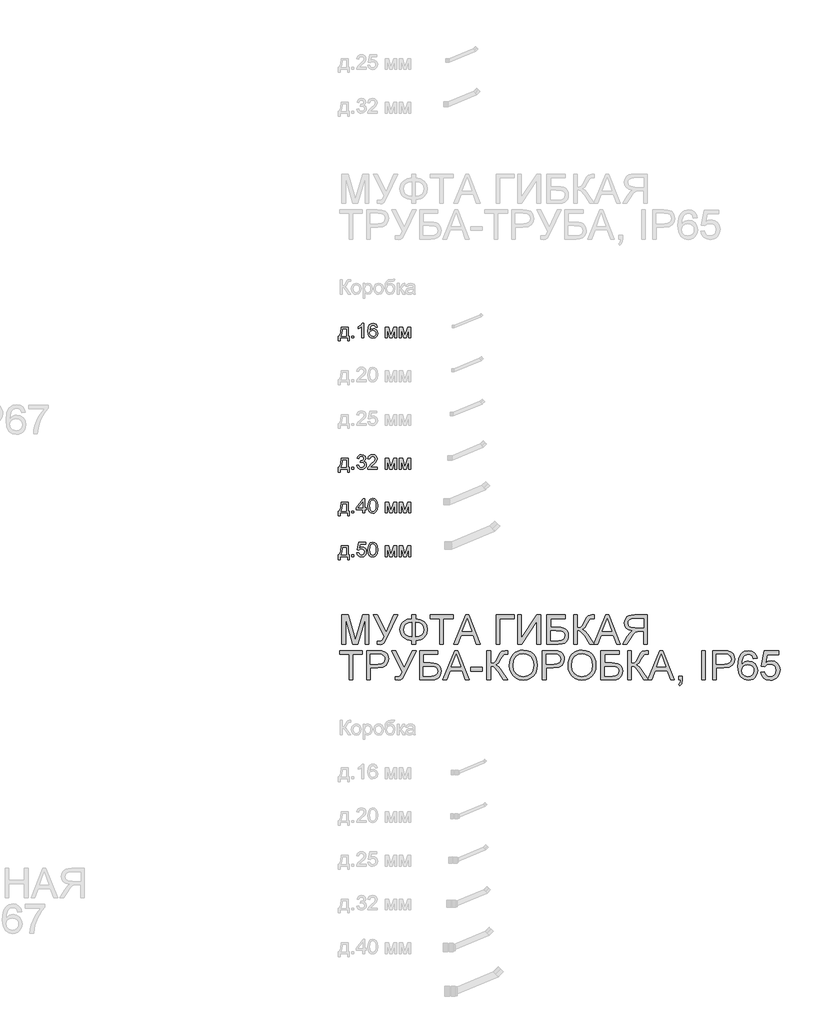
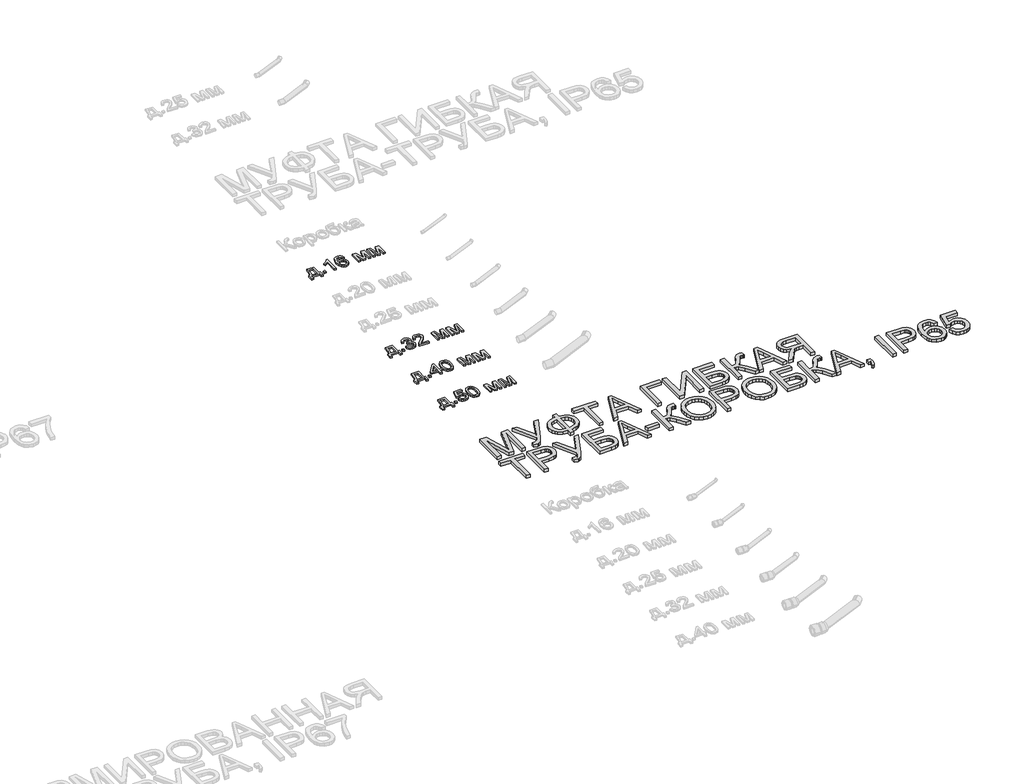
# One storey, part 73 of 98: 5 proxies.
"""IFC4 building model written with IfcOpenShell, lengths in millimetres."""

from ifc_helpers import new_model, si_unit, origin, origin_with_axes, place, context, project, spatial, polyline, outline, extrude, element, save

model = new_model("IFC4")

# Units and contexts
model_context = context("Model", 3, world=origin())
ifc_project = project(units=[si_unit("LENGTHUNIT", "METRE", prefix="MILLI")], contexts=[model_context])

# Site, building, storey
site = spatial("IfcSite", under=ifc_project)
building = spatial("IfcBuilding", under=site)
storey = spatial("IfcBuildingStorey", under=building, Name="Этаж 01", Elevation=0.0)

# Proxies
placement = place(None, origin())
element("IfcBuildingElementProxy", 1, Name="100", ObjectType="100", at=placement, inside=storey, context=model_context, shape_type="SweptSolid", body=[
    extrude(outline(polyline([(14428.905254, -21305.7395637), (14475.9941494, -21305.7395637), (14475.9941494, -21366.9551277), (14485.4119285, -21366.9551277), (14485.4119285, -21399.9173545), (14472.8548897, -21399.9173545), (14472.8548897, -21379.5121665), (14421.0571048, -21379.5121665), (14421.0571048, -21399.9173545), (14408.500066, -21399.9173545), (14408.500066, -21366.9551277), (14416.3482152, -21366.9551277), (14426.0480372, -21343.0060098), (14428.905254, -21305.7395637)]), holes=[polyline([(14439.8926629, -21318.2966025), (14436.949607, -21346.905559), (14430.4748839, -21366.9551277), (14463.4371106, -21366.9551277), (14463.4371106, -21318.2966025), (14439.8926629, -21318.2966025)])]), origin_with_axes(), (0.0, 0.0, 1.0), 10.0),
    extrude(outline(polyline([(14502.6778568, -21379.5121665), (14502.6778568, -21366.9551277), (14515.2348955, -21366.9551277), (14515.2348955, -21379.5121665), (14502.6778568, -21379.5121665)])), origin_with_axes(), (0.0, 0.0, 1.0), 10.0),
    extrude(outline(polyline([(14582.7289789, -21379.5121665), (14570.1719402, -21379.5121665), (14570.1719402, -21301.2268779), (14558.277089, -21309.7004265), (14545.0578626, -21316.0402596), (14545.0578626, -21304.1699338), (14563.4642251, -21292.4222355), (14574.635575, -21279.0558563), (14582.7289789, -21279.0558563), (14582.7289789, -21379.5121665)])), origin_with_axes(), (0.0, 0.0, 1.0), 10.0),
    extrude(outline(polyline([(14676.9067697, -21305.7395637), (14664.3497309, -21307.3091935), (14659.5917905, -21296.8368194), (14647.0102262, -21291.6128951), (14635.6794608, -21294.6540529), (14627.1078103, -21306.0706575), (14623.5393549, -21328.4501455), (14634.612603, -21318.4314925), (14648.3346014, -21315.1573428), (14659.935147, -21317.3952916), (14669.6717571, -21324.109138), (14676.2752389, -21334.3669143), (14678.4763995, -21347.2366527), (14674.3315957, -21364.5638947), (14662.9272539, -21376.8266279), (14646.470666, -21381.0817963), (14632.2244357, -21378.2613677), (14620.8783418, -21369.8000818), (14613.4563226, -21354.8640728), (14610.9823162, -21332.6194748), (14613.7291684, -21307.6096305), (14621.9697251, -21290.5092491), (14633.2207828, -21281.9192045), (14647.7950411, -21279.0558563), (14658.8131069, -21280.8278213), (14667.6361434, -21286.1437161), (14673.8165609, -21294.5866079), (14676.9067697, -21305.7395637)]), holes=[polyline([(14623.5393549, -21347.040449), (14626.4456227, -21357.9174933), (14634.1711446, -21365.8146935), (14645.4896473, -21368.5247575), (14653.7761892, -21367.1206746), (14660.2907662, -21362.9084257), (14664.5122121, -21356.2865498), (14665.9193608, -21347.6535857), (14664.5306062, -21339.3670437), (14660.3643426, -21333.0486705), (14653.739401, -21329.0479538), (14644.9746125, -21327.7143815), (14629.7810861, -21333.0486705), (14625.0997877, -21339.2137596), (14623.5393549, -21347.040449)])]), origin_with_axes(), (0.0, 0.0, 1.0), 10.0),
    extrude(outline(polyline([(14731.8438143, -21305.7395637), (14753.4507502, -21305.7395637), (14770.1035418, -21364.7968867), (14788.0561832, -21305.7395637), (14808.7556768, -21305.7395637), (14808.7556768, -21379.5121665), (14796.198638, -21379.5121665), (14796.198638, -21320.111487), (14778.1478948, -21379.5121665), (14761.6667814, -21379.5121665), (14744.4008531, -21317.2665329), (14744.4008531, -21379.5121665), (14731.8438143, -21379.5121665), (14731.8438143, -21305.7395637)])), origin_with_axes(), (0.0, 0.0, 1.0), 10.0),
    extrude(outline(polyline([(14827.5912349, -21305.7395637), (14849.1981708, -21305.7395637), (14865.8509624, -21364.7968867), (14883.8036038, -21305.7395637), (14904.5030974, -21305.7395637), (14904.5030974, -21379.5121665), (14891.9460586, -21379.5121665), (14891.9460586, -21320.111487), (14873.8953154, -21379.5121665), (14857.414202, -21379.5121665), (14840.1482737, -21317.2665329), (14840.1482737, -21379.5121665), (14827.5912349, -21379.5121665), (14827.5912349, -21305.7395637)])), origin_with_axes(), (0.0, 0.0, 1.0), 10.0),
])
element("IfcBuildingElementProxy", 2, Name="100", ObjectType="100", at=placement, inside=storey, context=model_context, shape_type="SweptSolid", body=[
    extrude(outline(polyline([(14428.905254, -22205.7395637), (14475.9941494, -22205.7395637), (14475.9941494, -22266.9551277), (14485.4119285, -22266.9551277), (14485.4119285, -22299.9173545), (14472.8548897, -22299.9173545), (14472.8548897, -22279.5121665), (14421.0571048, -22279.5121665), (14421.0571048, -22299.9173545), (14408.500066, -22299.9173545), (14408.500066, -22266.9551277), (14416.3482152, -22266.9551277), (14426.0480372, -22243.0060098), (14428.905254, -22205.7395637)]), holes=[polyline([(14439.8926629, -22218.2966025), (14436.949607, -22246.905559), (14430.4748839, -22266.9551277), (14463.4371106, -22266.9551277), (14463.4371106, -22218.2966025), (14439.8926629, -22218.2966025)])]), origin_with_axes(), (0.0, 0.0, 1.0), 10.0),
    extrude(outline(polyline([(14502.6778568, -22279.5121665), (14502.6778568, -22266.9551277), (14515.2348955, -22266.9551277), (14515.2348955, -22279.5121665), (14502.6778568, -22279.5121665)])), origin_with_axes(), (0.0, 0.0, 1.0), 10.0),
    extrude(outline(polyline([(14535.6400835, -22252.8284591), (14548.1971223, -22251.2588292), (14555.1255666, -22264.4780556), (14568.0872755, -22268.5247575), (14576.6957142, -22267.1329373), (14583.3421156, -22262.9574767), (14589.0074983, -22249.1741646), (14583.3911665, -22236.1879302), (14569.1173451, -22231.049845), (14560.3127027, -22232.4232711), (14561.7106543, -22219.8662323), (14563.7217425, -22220.0133851), (14577.9710385, -22216.4081416), (14582.7167162, -22211.8341421), (14584.2986088, -22205.3226308), (14579.7123466, -22195.5001815), (14567.8910718, -22191.6128951), (14555.9226442, -22195.5369697), (14549.7667522, -22207.3091935), (14537.2097134, -22205.7395637), (14540.9069274, -22194.4639805), (14547.4858838, -22186.0456142), (14556.4867299, -22180.8032958), (14567.4496134, -22179.0558563), (14582.5940889, -22182.5016843), (14593.1890903, -22191.9194634), (14596.8556475, -22204.5868668), (14593.3730313, -22216.1628869), (14583.0723355, -22224.47702), (14596.7575457, -22233.0609332), (14601.5645371, -22249.3948938), (14599.1610414, -22261.6331015), (14591.9505543, -22271.860221), (14581.0673786, -22278.7764025), (14567.6458171, -22281.0817963), (14555.5057113, -22279.1136276), (14545.6219483, -22273.2091216), (14538.7486864, -22264.1776186), (14535.6400835, -22252.8284591)])), origin_with_axes(), (0.0, 0.0, 1.0), 10.0),
    extrude(outline(polyline([(14676.9067697, -22266.9551277), (14676.9067697, -22279.5121665), (14610.9823162, -22279.5121665), (14612.3312168, -22270.8546768), (14619.9586368, -22257.5250859), (14635.6794608, -22242.9692216), (14657.359973, -22222.0489988), (14662.7801011, -22207.8242283), (14657.6665413, -22196.3095219), (14644.3124249, -22191.6128951), (14630.3942228, -22196.1991573), (14625.1089848, -22208.8788234), (14612.551946, -22207.3091935), (14615.5961695, -22195.1629563), (14622.1781915, -22186.2908689), (14631.9546556, -22180.8646095), (14644.5822051, -22179.0558563), (14657.301725, -22181.0669445), (14667.059795, -22187.1002093), (14673.2678036, -22196.1133182), (14675.3371398, -22207.0639389), (14673.1053224, -22218.9710528), (14665.6863688, -22231.2828369), (14647.6969393, -22248.4874515), (14633.2514396, -22260.5662437), (14627.5860569, -22266.9551277), (14676.9067697, -22266.9551277)])), origin_with_axes(), (0.0, 0.0, 1.0), 10.0),
    extrude(outline(polyline([(14731.8438143, -22205.7395637), (14753.4507502, -22205.7395637), (14770.1035418, -22264.7968867), (14788.0561832, -22205.7395637), (14808.7556768, -22205.7395637), (14808.7556768, -22279.5121665), (14796.198638, -22279.5121665), (14796.198638, -22220.111487), (14778.1478948, -22279.5121665), (14761.6667814, -22279.5121665), (14744.4008531, -22217.2665329), (14744.4008531, -22279.5121665), (14731.8438143, -22279.5121665), (14731.8438143, -22205.7395637)])), origin_with_axes(), (0.0, 0.0, 1.0), 10.0),
    extrude(outline(polyline([(14827.5912349, -22205.7395637), (14849.1981708, -22205.7395637), (14865.8509624, -22264.7968867), (14883.8036038, -22205.7395637), (14904.5030974, -22205.7395637), (14904.5030974, -22279.5121665), (14891.9460586, -22279.5121665), (14891.9460586, -22220.111487), (14873.8953154, -22279.5121665), (14857.414202, -22279.5121665), (14840.1482737, -22217.2665329), (14840.1482737, -22279.5121665), (14827.5912349, -22279.5121665), (14827.5912349, -22205.7395637)])), origin_with_axes(), (0.0, 0.0, 1.0), 10.0),
])
element("IfcBuildingElementProxy", 3, Name="100", ObjectType="100", at=placement, inside=storey, context=model_context, shape_type="SweptSolid", body=[
    extrude(outline(polyline([(14428.905254, -22505.7395637), (14475.9941494, -22505.7395637), (14475.9941494, -22566.9551277), (14485.4119285, -22566.9551277), (14485.4119285, -22599.9173545), (14472.8548897, -22599.9173545), (14472.8548897, -22579.5121665), (14421.0571048, -22579.5121665), (14421.0571048, -22599.9173545), (14408.500066, -22599.9173545), (14408.500066, -22566.9551277), (14416.3482152, -22566.9551277), (14426.0480372, -22543.0060098), (14428.905254, -22505.7395637)]), holes=[polyline([(14439.8926629, -22518.2966025), (14436.949607, -22546.905559), (14430.4748839, -22566.9551277), (14463.4371106, -22566.9551277), (14463.4371106, -22518.2966025), (14439.8926629, -22518.2966025)])]), origin_with_axes(), (0.0, 0.0, 1.0), 10.0),
    extrude(outline(polyline([(14502.6778568, -22579.5121665), (14502.6778568, -22566.9551277), (14515.2348955, -22566.9551277), (14515.2348955, -22579.5121665), (14502.6778568, -22579.5121665)])), origin_with_axes(), (0.0, 0.0, 1.0), 10.0),
    extrude(outline(polyline([(14576.4504595, -22579.5121665), (14576.4504595, -22555.9677188), (14530.931194, -22555.9677188), (14530.931194, -22543.41068), (14579.5897192, -22480.6254862), (14589.0074983, -22480.6254862), (14589.0074983, -22543.41068), (14601.5645371, -22543.41068), (14601.5645371, -22555.9677188), (14589.0074983, -22555.9677188), (14589.0074983, -22579.5121665), (14576.4504595, -22579.5121665)]), holes=[polyline([(14576.4504595, -22543.41068), (14576.4504595, -22504.6113922), (14546.3822378, -22543.41068), (14576.4504595, -22543.41068)])]), origin_with_axes(), (0.0, 0.0, 1.0), 10.0),
    extrude(outline(polyline([(14612.551946, -22530.0933518), (14616.2430287, -22501.1900897), (14627.2059121, -22484.5250353), (14645.5141728, -22479.0558563), (14660.1804016, -22482.2932179), (14670.3094192, -22491.6251578), (14676.1955312, -22506.4875904), (14678.4763995, -22530.0933518), (14674.8221051, -22558.8739865), (14663.8960098, -22575.5758291), (14655.6646502, -22579.7053045), (14645.5141728, -22581.0817963), (14632.4666247, -22578.6905633), (14622.5583363, -22571.5168644), (14615.0535436, -22554.5268476), (14612.551946, -22530.0933518)]), holes=[polyline([(14625.1089848, -22530.0688263), (14626.5805128, -22549.8210238), (14630.9950967, -22561.2529568), (14637.5679217, -22566.7068073), (14645.5141728, -22568.5247575), (14653.4604239, -22566.700676), (14660.0332488, -22561.2284313), (14664.4478328, -22549.7903669), (14665.9193608, -22530.0688263), (14664.4968837, -22510.7611529), (14660.2294526, -22499.2403151), (14653.6688903, -22493.5197501), (14645.36702, -22491.6128951), (14637.506608, -22493.2928895), (14631.1913004, -22498.3328729), (14626.6295637, -22510.5710806), (14625.1089848, -22530.0688263)])]), origin_with_axes(), (0.0, 0.0, 1.0), 10.0),
    extrude(outline(polyline([(14731.8438143, -22505.7395637), (14753.4507502, -22505.7395637), (14770.1035418, -22564.7968867), (14788.0561832, -22505.7395637), (14808.7556768, -22505.7395637), (14808.7556768, -22579.5121665), (14796.198638, -22579.5121665), (14796.198638, -22520.111487), (14778.1478948, -22579.5121665), (14761.6667814, -22579.5121665), (14744.4008531, -22517.2665329), (14744.4008531, -22579.5121665), (14731.8438143, -22579.5121665), (14731.8438143, -22505.7395637)])), origin_with_axes(), (0.0, 0.0, 1.0), 10.0),
    extrude(outline(polyline([(14827.5912349, -22505.7395637), (14849.1981708, -22505.7395637), (14865.8509624, -22564.7968867), (14883.8036038, -22505.7395637), (14904.5030974, -22505.7395637), (14904.5030974, -22579.5121665), (14891.9460586, -22579.5121665), (14891.9460586, -22520.111487), (14873.8953154, -22579.5121665), (14857.414202, -22579.5121665), (14840.1482737, -22517.2665329), (14840.1482737, -22579.5121665), (14827.5912349, -22579.5121665), (14827.5912349, -22505.7395637)])), origin_with_axes(), (0.0, 0.0, 1.0), 10.0),
])
element("IfcBuildingElementProxy", 4, Name="100", ObjectType="100", at=placement, inside=storey, context=model_context, shape_type="SweptSolid", body=[
    extrude(outline(polyline([(14428.905254, -22805.7395637), (14475.9941494, -22805.7395637), (14475.9941494, -22866.9551277), (14485.4119285, -22866.9551277), (14485.4119285, -22899.9173545), (14472.8548897, -22899.9173545), (14472.8548897, -22879.5121665), (14421.0571048, -22879.5121665), (14421.0571048, -22899.9173545), (14408.500066, -22899.9173545), (14408.500066, -22866.9551277), (14416.3482152, -22866.9551277), (14426.0480372, -22843.0060098), (14428.905254, -22805.7395637)]), holes=[polyline([(14439.8926629, -22818.2966025), (14436.949607, -22846.905559), (14430.4748839, -22866.9551277), (14463.4371106, -22866.9551277), (14463.4371106, -22818.2966025), (14439.8926629, -22818.2966025)])]), origin_with_axes(), (0.0, 0.0, 1.0), 10.0),
    extrude(outline(polyline([(14502.6778568, -22879.5121665), (14502.6778568, -22866.9551277), (14515.2348955, -22866.9551277), (14515.2348955, -22879.5121665), (14502.6778568, -22879.5121665)])), origin_with_axes(), (0.0, 0.0, 1.0), 10.0),
    extrude(outline(polyline([(14535.6400835, -22852.8284591), (14548.1971223, -22851.2588292), (14554.5246926, -22864.1960127), (14567.6458171, -22868.5247575), (14576.6466633, -22867.019507), (14583.3911665, -22862.5037555), (14587.6034154, -22855.4986692), (14589.0074983, -22846.5254142), (14583.7467858, -22831.6139307), (14577.1402383, -22827.5120464), (14567.8420209, -22826.1447517), (14556.8178237, -22828.3275182), (14549.7667522, -22833.9929009), (14537.2097134, -22832.4232711), (14548.1971223, -22780.6254862), (14596.8556475, -22780.6254862), (14596.8556475, -22793.1825249), (14558.3506654, -22793.1825249), (14552.9795883, -22820.847251), (14561.9497776, -22815.4025974), (14571.3491625, -22813.5877129), (14583.0815325, -22815.8379245), (14592.8212083, -22822.5885591), (14599.3787049, -22832.8769922), (14601.5645371, -22845.7405993), (14599.5963684, -22858.2976381), (14593.6918624, -22869.0397923), (14582.3856224, -22878.0712953), (14567.5967662, -22881.0817963), (14555.2635223, -22879.1473501), (14545.4380074, -22873.3440117), (14538.7027012, -22864.3462312), (14535.6400835, -22852.8284591)])), origin_with_axes(), (0.0, 0.0, 1.0), 10.0),
    extrude(outline(polyline([(14612.551946, -22830.0933518), (14616.2430287, -22801.1900897), (14627.2059121, -22784.5250353), (14645.5141728, -22779.0558563), (14660.1804016, -22782.2932179), (14670.3094192, -22791.6251578), (14676.1955312, -22806.4875904), (14678.4763995, -22830.0933518), (14674.8221051, -22858.8739865), (14663.8960098, -22875.5758291), (14655.6646502, -22879.7053045), (14645.5141728, -22881.0817963), (14632.4666247, -22878.6905633), (14622.5583363, -22871.5168644), (14615.0535436, -22854.5268476), (14612.551946, -22830.0933518)]), holes=[polyline([(14625.1089848, -22830.0688263), (14626.5805128, -22849.8210238), (14630.9950967, -22861.2529568), (14637.5679217, -22866.7068073), (14645.5141728, -22868.5247575), (14653.4604239, -22866.700676), (14660.0332488, -22861.2284313), (14664.4478328, -22849.7903669), (14665.9193608, -22830.0688263), (14664.4968837, -22810.7611529), (14660.2294526, -22799.2403151), (14653.6688903, -22793.5197501), (14645.36702, -22791.6128951), (14637.506608, -22793.2928895), (14631.1913004, -22798.3328729), (14626.6295637, -22810.5710806), (14625.1089848, -22830.0688263)])]), origin_with_axes(), (0.0, 0.0, 1.0), 10.0),
    extrude(outline(polyline([(14731.8438143, -22805.7395637), (14753.4507502, -22805.7395637), (14770.1035418, -22864.7968867), (14788.0561832, -22805.7395637), (14808.7556768, -22805.7395637), (14808.7556768, -22879.5121665), (14796.198638, -22879.5121665), (14796.198638, -22820.111487), (14778.1478948, -22879.5121665), (14761.6667814, -22879.5121665), (14744.4008531, -22817.2665329), (14744.4008531, -22879.5121665), (14731.8438143, -22879.5121665), (14731.8438143, -22805.7395637)])), origin_with_axes(), (0.0, 0.0, 1.0), 10.0),
    extrude(outline(polyline([(14827.5912349, -22805.7395637), (14849.1981708, -22805.7395637), (14865.8509624, -22864.7968867), (14883.8036038, -22805.7395637), (14904.5030974, -22805.7395637), (14904.5030974, -22879.5121665), (14891.9460586, -22879.5121665), (14891.9460586, -22820.111487), (14873.8953154, -22879.5121665), (14857.414202, -22879.5121665), (14840.1482737, -22817.2665329), (14840.1482737, -22879.5121665), (14827.5912349, -22879.5121665), (14827.5912349, -22805.7395637)])), origin_with_axes(), (0.0, 0.0, 1.0), 10.0),
])
element("IfcBuildingElementProxy", 5, Name="200", ObjectType="200", at=placement, inside=storey, context=model_context, shape_type="SweptSolid", body=[
    extrude(outline(polyline([(14433.303462, -23479.5121665), (14433.303462, -23278.5995462), (14476.5173337, -23278.5995462), (14517.6220153, -23420.2095888), (14525.9116229, -23449.7873012), (14534.8879436, -23417.7570422), (14575.3059121, -23278.5995462), (14618.5197838, -23278.5995462), (14618.5197838, -23479.5121665), (14593.4057063, -23479.5121665), (14593.4057063, -23303.7136237), (14542.9322965, -23479.5121665), (14508.8909492, -23479.5121665), (14458.4175395, -23303.7136237), (14458.4175395, -23479.5121665), (14433.303462, -23479.5121665)])), origin_with_axes(), (0.0, 0.0, 1.0), 20.0),
    extrude(outline(polyline([(14648.3427509, -23278.5995462), (14676.1546297, -23278.5995462), (14736.2420223, -23397.5971089), (14790.2961501, -23278.5995462), (14817.8627743, -23278.5995462), (14741.5885739, -23435.1210724), (14720.8400294, -23473.5770036), (14710.9930547, -23480.3828205), (14697.6389382, -23482.6514262), (14675.0264583, -23479.5121665), (14675.0264583, -23457.5373486), (14694.7939841, -23457.5373486), (14709.460213, -23451.9455423), (14723.0473214, -23426.4881082), (14648.3427509, -23278.5995462)])), origin_with_axes(), (0.0, 0.0, 1.0), 20.0),
    extrude(outline(polyline([(14913.6101949, -23303.7136237), (14913.6101949, -23278.5995462), (14938.7242724, -23278.5995462), (14938.7242724, -23303.7136237), (14972.5632846, -23310.5071779), (14998.443783, -23326.7675621), (15014.869714, -23350.3242725), (15020.3450244, -23379.0068054), (15015.0413923, -23407.2233544), (14999.130496, -23430.8536412), (14987.3996589, -23440.3266026), (14973.4216759, -23447.408331), (14938.7242724, -23454.3980889), (14938.7242724, -23479.5121665), (14913.6101949, -23479.5121665), (14913.6101949, -23454.3980889), (14881.5186222, -23448.2851164), (14855.2886359, -23432.6930512), (14845.095239, -23421.7133065), (14837.8142411, -23409.1056839), (14831.9894429, -23379.0068054), (14837.795847, -23348.8159563), (14845.0538522, -23336.2405234), (14855.2150595, -23325.345085), (14881.4266517, -23309.8817785), (14913.6101949, -23303.7136237)]), holes=[polyline([(14913.6101949, -23328.8277012), (14890.7585916, -23332.8498777), (14872.7262425, -23342.856268), (14861.0092009, -23358.4054136), (14857.1035204, -23379.0558563), (14860.96015, -23399.5530148), (14872.5300387, -23415.1328173), (14890.5133369, -23425.2311781), (14913.6101949, -23429.2840114), (14913.6101949, -23328.8277012)]), polyline([(14938.7242724, -23328.8277012), (14938.7242724, -23429.2840114), (14962.2196692, -23425.1330762), (14980.1232596, -23415.0347154), (14991.4540251, -23399.5039639), (14995.2309469, -23379.0558563), (14991.5214701, -23358.8836602), (14980.3930397, -23343.3958282), (14962.5568943, -23333.1809715), (14938.7242724, -23328.8277012)])]), origin_with_axes(), (0.0, 0.0, 1.0), 20.0),
    extrude(outline(polyline([(15105.1050361, -23479.5121665), (15105.1050361, -23303.7136237), (15039.1805826, -23303.7136237), (15039.1805826, -23278.5995462), (15196.1435672, -23278.5995462), (15196.1435672, -23303.7136237), (15130.2191136, -23303.7136237), (15130.2191136, -23479.5121665), (15105.1050361, -23479.5121665)])), origin_with_axes(), (0.0, 0.0, 1.0), 20.0),
    extrude(outline(polyline([(15200.9996095, -23479.5121665), (15281.1978845, -23278.5995462), (15302.5840911, -23278.5995462), (15382.7823661, -23479.5121665), (15356.2458115, -23479.5121665), (15333.240924, -23416.7269726), (15250.4920006, -23416.7269726), (15227.5361641, -23479.5121665), (15200.9996095, -23479.5121665)]), holes=[polyline([(15259.7135759, -23391.6128951), (15324.0683996, -23391.6128951), (15305.9686055, -23342.2186059), (15291.8909878, -23303.7136237), (15279.3829999, -23337.9021238), (15259.7135759, -23391.6128951)])]), origin_with_axes(), (0.0, 0.0, 1.0), 20.0),
    extrude(outline(polyline([(15491.2339782, -23278.5995462), (15616.8043659, -23278.5995462), (15616.8043659, -23303.7136237), (15516.3480558, -23303.7136237), (15516.3480558, -23479.5121665), (15491.2339782, -23479.5121665), (15491.2339782, -23278.5995462)])), origin_with_axes(), (0.0, 0.0, 1.0), 20.0),
    extrude(outline(polyline([(15638.7791838, -23278.5995462), (15663.8932613, -23278.5995462), (15663.8932613, -23437.7207718), (15769.058461, -23278.5995462), (15795.7421684, -23278.5995462), (15795.7421684, -23479.5121665), (15770.6280908, -23479.5121665), (15770.6280908, -23320.8323992), (15665.7081458, -23479.5121665), (15638.7791838, -23479.5121665), (15638.7791838, -23278.5995462)])), origin_with_axes(), (0.0, 0.0, 1.0), 20.0),
    extrude(outline(polyline([(15839.6918041, -23278.5995462), (15965.2621918, -23278.5995462), (15965.2621918, -23303.7136237), (15864.8058816, -23303.7136237), (15864.8058816, -23363.3595578), (15911.8457261, -23363.3595578), (15935.2307582, -23364.6348821), (15953.2937642, -23368.4608548), (15967.1629154, -23375.8307575), (15977.9663833, -23387.7378714), (15984.919353, -23403.0662879), (15987.2370096, -23420.7000982), (15985.587672, -23435.5073485), (15980.6396591, -23449.3213174), (15972.4174966, -23461.4185037), (15960.9457097, -23471.075406), (15943.2505857, -23477.4029764), (15916.3584119, -23479.5121665), (15839.6918041, -23479.5121665), (15839.6918041, -23278.5995462)]), holes=[polyline([(15864.8058816, -23454.3980889), (15918.6147548, -23454.3980889), (15937.6342539, -23452.325687), (15951.233625, -23446.1084813), (15959.4006053, -23435.7464718), (15962.1229321, -23421.2396584), (15960.5655649, -23410.4361905), (15955.8934636, -23401.5702344), (15948.4438532, -23394.9974094), (15938.5539589, -23391.0733348), (15900.7111643, -23388.4736354), (15864.8058816, -23388.4736354), (15864.8058816, -23454.3980889)])]), origin_with_axes(), (0.0, 0.0, 1.0), 20.0),
    extrude(outline(polyline([(16021.7688662, -23278.5995462), (16046.8829437, -23278.5995462), (16046.8829437, -23366.4988175), (16063.8852233, -23364.8372172), (16074.9646027, -23359.8524162), (16083.9225293, -23348.1231119), (16094.5604503, -23326.2280018), (16108.4173388, -23298.1463428), (16124.1136373, -23284.2404034), (16146.554439, -23278.5995462), (16163.0355524, -23278.8938518), (16163.0355524, -23304.0079293), (16157.492797, -23303.8607765), (16151.9500416, -23303.7136237), (16140.4475979, -23305.2219399), (16132.3296685, -23309.7468884), (16117.418185, -23335.5967299), (16099.6372219, -23367.0874287), (16082.2977171, -23377.4862265), (16101.6850983, -23388.8415174), (16120.8026993, -23412.5085924), (16163.0355524, -23479.5121665), (16133.8992983, -23479.5121665), (16098.1902193, -23422.9073901), (16073.0516163, -23393.3542032), (16061.4449394, -23387.3393326), (16046.8829437, -23385.3343757), (16046.8829437, -23479.5121665), (16021.7688662, -23479.5121665), (16021.7688662, -23278.5995462)])), origin_with_axes(), (0.0, 0.0, 1.0), 20.0),
    extrude(outline(polyline([(16161.6130753, -23479.5121665), (16241.8113503, -23278.5995462), (16263.1975569, -23278.5995462), (16343.3958319, -23479.5121665), (16316.8592773, -23479.5121665), (16293.8543898, -23416.7269726), (16211.1054664, -23416.7269726), (16188.1496299, -23479.5121665), (16161.6130753, -23479.5121665)]), holes=[polyline([(16220.3270417, -23391.6128951), (16284.6818654, -23391.6128951), (16266.5820713, -23342.2186059), (16252.5044536, -23303.7136237), (16239.9964657, -23337.9021238), (16220.3270417, -23391.6128951)])]), origin_with_axes(), (0.0, 0.0, 1.0), 20.0),
    extrude(outline(polyline([(16527.1896767, -23479.5121665), (16502.0755991, -23479.5121665), (16502.0755991, -23391.6128951), (16471.7621227, -23391.6128951), (16457.1939957, -23392.4958119), (16445.2500936, -23397.2782778), (16431.9818163, -23410.3013004), (16413.0972072, -23437.8679246), (16386.9530601, -23479.5121665), (16357.7677551, -23479.5121665), (16391.2695422, -23425.0656312), (16411.6256792, -23399.2157896), (16425.8995006, -23388.4736354), (16401.1594365, -23381.8149713), (16383.8383259, -23369.78523), (16373.6296005, -23353.377693), (16370.226692, -23333.5856417), (16372.2806998, -23317.6747454), (16378.4427233, -23303.1985889), (16388.0444433, -23291.5244669), (16400.4175411, -23284.0196742), (16417.3462443, -23279.9545782), (16440.6147805, -23278.5995462), (16527.1896767, -23278.5995462), (16527.1896767, -23479.5121665)]), holes=[polyline([(16502.0755991, -23366.4988175), (16502.0755991, -23303.7136237), (16439.5356599, -23303.7136237), (16419.6639008, -23305.8841275), (16405.9602965, -23312.3956388), (16397.9956513, -23322.267139), (16395.3407696, -23334.5176094), (16400.9080504, -23351.5628085), (16407.7629183, -23358.3195745), (16417.1929601, -23362.9426249), (16445.8632302, -23366.4988175), (16502.0755991, -23366.4988175)])]), origin_with_axes(), (0.0, 0.0, 1.0), 20.0),
    extrude(outline(polyline([(14483.531617, -23723.4618021), (14483.531617, -23547.6632594), (14417.6071635, -23547.6632594), (14417.6071635, -23522.5491818), (14574.5701481, -23522.5491818), (14574.5701481, -23547.6632594), (14508.6456946, -23547.6632594), (14508.6456946, -23723.4618021), (14483.531617, -23723.4618021)])), origin_with_axes(), (0.0, 0.0, 1.0), 20.0),
    extrude(outline(polyline([(14602.8234853, -23723.4618021), (14602.8234853, -23522.5491818), (14677.2828012, -23522.5491818), (14707.301972, -23524.4621682), (14731.704811, -23533.8554218), (14740.5768984, -23542.1818177), (14747.5237368, -23553.2795912), (14752.0118971, -23566.3700588), (14753.5079506, -23580.6745371), (14749.46738, -23604.3538748), (14737.3456682, -23624.0846125), (14727.6381821, -23631.853054), (14714.678006, -23637.4019407), (14678.9995838, -23641.8410502), (14627.9375629, -23641.8410502), (14627.9375629, -23723.4618021), (14602.8234853, -23723.4618021)]), holes=[polyline([(14627.9375629, -23616.7269726), (14680.4711118, -23616.7269726), (14702.7402352, -23614.4215788), (14717.455515, -23607.5053973), (14725.6592835, -23596.4076237), (14728.393873, -23581.5574539), (14726.7813236, -23570.2757394), (14721.9436754, -23560.7598584), (14714.4818022, -23553.5984222), (14704.9965781, -23549.380042), (14679.8825006, -23547.6632594), (14627.9375629, -23547.6632594), (14627.9375629, -23616.7269726)])]), origin_with_axes(), (0.0, 0.0, 1.0), 20.0),
    extrude(outline(polyline([(14773.9131386, -23522.5491818), (14801.7250174, -23522.5491818), (14861.81241, -23641.5467446), (14915.8665378, -23522.5491818), (14943.4331619, -23522.5491818), (14867.1589616, -23679.0707081), (14846.4104171, -23717.5266393), (14836.5634423, -23724.3324562), (14823.2093259, -23726.6010618), (14800.596846, -23723.4618021), (14800.596846, -23701.4869843), (14820.3643718, -23701.4869843), (14835.0306007, -23695.895178), (14848.6177091, -23670.4377439), (14773.9131386, -23522.5491818)])), origin_with_axes(), (0.0, 0.0, 1.0), 20.0),
    extrude(outline(polyline([(14966.9776096, -23522.5491818), (15092.5479973, -23522.5491818), (15092.5479973, -23547.6632594), (14992.0916872, -23547.6632594), (14992.0916872, -23607.3091935), (15039.1315316, -23607.3091935), (15062.5165638, -23608.5845178), (15080.5795697, -23612.4104905), (15094.448721, -23619.7803932), (15105.2521889, -23631.6875071), (15112.2051586, -23647.0159236), (15114.5228152, -23664.6497339), (15112.8734776, -23679.4569842), (15107.9254647, -23693.2709531), (15099.7033021, -23705.3681394), (15088.2315152, -23715.0250417), (15070.5363913, -23721.352612), (15043.6442174, -23723.4618021), (14966.9776096, -23723.4618021), (14966.9776096, -23522.5491818)]), holes=[polyline([(14992.0916872, -23698.3477246), (15045.9005603, -23698.3477246), (15064.9200595, -23696.2753227), (15078.5194306, -23690.058117), (15086.6864109, -23679.6961075), (15089.4087376, -23665.1892941), (15087.8513705, -23654.3858262), (15083.1792692, -23645.5198701), (15075.7296588, -23638.9470451), (15065.8397645, -23635.0229705), (15027.9969699, -23632.4232711), (14992.0916872, -23632.4232711), (14992.0916872, -23698.3477246)])]), origin_with_axes(), (0.0, 0.0, 1.0), 20.0),
    extrude(outline(polyline([(15125.6573769, -23723.4618021), (15205.8556518, -23522.5491818), (15227.2418585, -23522.5491818), (15307.4401334, -23723.4618021), (15280.9035789, -23723.4618021), (15257.8986914, -23660.6766083), (15175.149768, -23660.6766083), (15152.1939315, -23723.4618021), (15125.6573769, -23723.4618021)]), holes=[polyline([(15184.3713433, -23635.5625308), (15248.726167, -23635.5625308), (15230.6263728, -23586.1682415), (15216.5487552, -23547.6632594), (15204.0407673, -23581.8517595), (15184.3713433, -23635.5625308)])]), origin_with_axes(), (0.0, 0.0, 1.0), 20.0),
    extrude(outline(polyline([(15318.5746952, -23663.815868), (15318.5746952, -23638.7017905), (15397.0561875, -23638.7017905), (15397.0561875, -23663.815868), (15318.5746952, -23663.815868)])), origin_with_axes(), (0.0, 0.0, 1.0), 20.0),
    extrude(outline(polyline([(15428.4487844, -23522.5491818), (15453.5628619, -23522.5491818), (15453.5628619, -23610.4484532), (15470.5651415, -23608.7868529), (15481.6445209, -23603.8020519), (15490.6024475, -23592.0727476), (15501.2403685, -23570.1776375), (15515.097257, -23542.0959785), (15530.7935554, -23528.1900391), (15553.2343572, -23522.5491818), (15569.7154705, -23522.8434874), (15569.7154705, -23547.957565), (15564.1727151, -23547.8104122), (15558.6299597, -23547.6632594), (15547.127516, -23549.1715756), (15539.0095867, -23553.6965241), (15524.0981031, -23579.5463656), (15506.31714, -23611.0370644), (15488.9776353, -23621.4358622), (15508.3650165, -23632.7911531), (15527.4826175, -23656.4582281), (15569.7154705, -23723.4618021), (15540.5792165, -23723.4618021), (15504.8701375, -23666.8570258), (15479.7315345, -23637.3038389), (15468.1248576, -23631.2889683), (15453.5628619, -23629.2840114), (15453.5628619, -23723.4618021), (15428.4487844, -23723.4618021), (15428.4487844, -23522.5491818)])), origin_with_axes(), (0.0, 0.0, 1.0), 20.0),
    extrude(outline(polyline([(15582.2725093, -23625.6542424), (15583.9463724, -23602.0883349), (15588.9679616, -23581.2263601), (15597.337277, -23563.0683179), (15609.0543186, -23547.6142085), (15623.4170448, -23535.2748332), (15639.7234142, -23526.4609937), (15657.9734269, -23521.1726901), (15678.1670827, -23519.4099222), (15704.5196963, -23522.7208601), (15728.1499831, -23532.653674), (15747.7703562, -23548.509388), (15762.0932285, -23569.5890263), (15770.84882, -23594.8747821), (15773.7673505, -23623.3488485), (15770.6955359, -23652.2030597), (15761.4800919, -23677.8444347), (15746.629922, -23698.9608613), (15726.6539297, -23714.2402268), (15703.225978, -23723.5108531), (15678.0199299, -23726.6010618), (15651.2626461, -23723.1858907), (15627.4974692, -23712.9403771), (15607.9261471, -23696.7903575), (15593.7504276, -23675.6616682), (15585.1419889, -23651.3507997), (15582.2725093, -23625.6542424)]), holes=[polyline([(15607.3865868, -23625.899497), (15612.4081761, -23657.3288821), (15627.4729438, -23681.278), (15650.1160806, -23696.4347382), (15677.8727771, -23701.4869843), (15706.0341438, -23696.3856873), (15728.7140689, -23681.0817963), (15737.4374707, -23669.8092788), (15743.668472, -23656.3969144), (15748.653273, -23623.1526448), (15746.5195574, -23600.9203096), (15740.1184107, -23581.7046067), (15729.6153797, -23565.9899141), (15715.1760114, -23554.2606098), (15697.756799, -23546.9581522), (15678.3142355, -23544.5239997), (15651.2994343, -23549.2144951), (15628.3313351, -23563.2859814), (15619.1680077, -23574.2350693), (15612.6227739, -23588.3203512), (15607.3865868, -23625.899497)])]), origin_with_axes(), (0.0, 0.0, 1.0), 20.0),
    extrude(outline(polyline([(15808.2992071, -23723.4618021), (15808.2992071, -23522.5491818), (15882.758523, -23522.5491818), (15912.7776938, -23524.4621682), (15937.1805328, -23533.8554218), (15946.0526202, -23542.1818177), (15952.9994586, -23553.2795912), (15957.4876189, -23566.3700588), (15958.9836724, -23580.6745371), (15954.9431018, -23604.3538748), (15942.82139, -23624.0846125), (15933.1139039, -23631.853054), (15920.1537278, -23637.4019407), (15884.4753056, -23641.8410502), (15833.4132847, -23641.8410502), (15833.4132847, -23723.4618021), (15808.2992071, -23723.4618021)]), holes=[polyline([(15833.4132847, -23616.7269726), (15885.9468336, -23616.7269726), (15908.215957, -23614.4215788), (15922.9312368, -23607.5053973), (15931.1350053, -23596.4076237), (15933.8695948, -23581.5574539), (15932.2570454, -23570.2757394), (15927.4193972, -23560.7598584), (15919.957524, -23553.5984222), (15910.4722999, -23549.380042), (15885.3582224, -23547.6632594), (15833.4132847, -23547.6632594), (15833.4132847, -23616.7269726)])]), origin_with_axes(), (0.0, 0.0, 1.0), 20.0),
    extrude(outline(polyline([(15984.0977499, -23625.6542424), (15985.771613, -23602.0883349), (15990.7932022, -23581.2263601), (15999.1625176, -23563.0683179), (16010.8795592, -23547.6142085), (16025.2422854, -23535.2748332), (16041.5486548, -23526.4609937), (16059.7986675, -23521.1726901), (16079.9923233, -23519.4099222), (16106.3449369, -23522.7208601), (16129.9752237, -23532.653674), (16149.5955968, -23548.509388), (16163.9184691, -23569.5890263), (16172.6740606, -23594.8747821), (16175.5925911, -23623.3488485), (16172.5207765, -23652.2030597), (16163.3053325, -23677.8444347), (16148.4551626, -23698.9608613), (16128.4791703, -23714.2402268), (16105.0512186, -23723.5108531), (16079.8451705, -23726.6010618), (16053.0878867, -23723.1858907), (16029.3227098, -23712.9403771), (16009.7513877, -23696.7903575), (15995.5756682, -23675.6616682), (15986.9672295, -23651.3507997), (15984.0977499, -23625.6542424)]), holes=[polyline([(16009.2118274, -23625.899497), (16014.2334167, -23657.3288821), (16029.2981844, -23681.278), (16051.9413212, -23696.4347382), (16079.6980177, -23701.4869843), (16107.8593844, -23696.3856873), (16130.5393095, -23681.0817963), (16139.2627113, -23669.8092788), (16145.4937126, -23656.3969144), (16150.4785136, -23623.1526448), (16148.344798, -23600.9203096), (16141.9436513, -23581.7046067), (16131.4406203, -23565.9899141), (16117.001252, -23554.2606098), (16099.5820396, -23546.9581522), (16080.1394761, -23544.5239997), (16053.1246749, -23549.2144951), (16030.1565757, -23563.2859814), (16020.9932483, -23574.2350693), (16014.4480145, -23588.3203512), (16009.2118274, -23625.899497)])]), origin_with_axes(), (0.0, 0.0, 1.0), 20.0),
    extrude(outline(polyline([(16210.1244477, -23522.5491818), (16335.6948354, -23522.5491818), (16335.6948354, -23547.6632594), (16235.2385253, -23547.6632594), (16235.2385253, -23607.3091935), (16282.2783697, -23607.3091935), (16305.6634019, -23608.5845178), (16323.7264079, -23612.4104905), (16337.5955591, -23619.7803932), (16348.399027, -23631.6875071), (16355.3519967, -23647.0159236), (16357.6696533, -23664.6497339), (16356.0203157, -23679.4569842), (16351.0723028, -23693.2709531), (16342.8501402, -23705.3681394), (16331.3783534, -23715.0250417), (16313.6832294, -23721.352612), (16286.7910555, -23723.4618021), (16210.1244477, -23723.4618021), (16210.1244477, -23522.5491818)]), holes=[polyline([(16235.2385253, -23698.3477246), (16289.0473984, -23698.3477246), (16308.0668976, -23696.2753227), (16321.6662687, -23690.058117), (16329.833249, -23679.6961075), (16332.5555757, -23665.1892941), (16330.9982086, -23654.3858262), (16326.3261073, -23645.5198701), (16318.8764969, -23638.9470451), (16308.9866026, -23635.0229705), (16271.143808, -23632.4232711), (16235.2385253, -23632.4232711), (16235.2385253, -23698.3477246)])]), origin_with_axes(), (0.0, 0.0, 1.0), 20.0),
    extrude(outline(polyline([(16392.2015099, -23522.5491818), (16417.3155874, -23522.5491818), (16417.3155874, -23610.4484532), (16434.317867, -23608.7868529), (16445.3972464, -23603.8020519), (16454.355173, -23592.0727476), (16464.993094, -23570.1776375), (16478.8499825, -23542.0959785), (16494.5462809, -23528.1900391), (16516.9870827, -23522.5491818), (16533.468196, -23522.8434874), (16533.468196, -23547.957565), (16527.9254406, -23547.8104122), (16522.3826852, -23547.6632594), (16510.8802415, -23549.1715756), (16502.7623122, -23553.6965241), (16487.8508286, -23579.5463656), (16470.0698655, -23611.0370644), (16452.7303608, -23621.4358622), (16472.117742, -23632.7911531), (16491.235343, -23656.4582281), (16533.468196, -23723.4618021), (16504.331942, -23723.4618021), (16468.622863, -23666.8570258), (16443.48426, -23637.3038389), (16431.8775831, -23631.2889683), (16417.3155874, -23629.2840114), (16417.3155874, -23723.4618021), (16392.2015099, -23723.4618021), (16392.2015099, -23522.5491818)])), origin_with_axes(), (0.0, 0.0, 1.0), 20.0),
    extrude(outline(polyline([(16532.045719, -23723.4618021), (16612.2439939, -23522.5491818), (16633.6302006, -23522.5491818), (16713.8284755, -23723.4618021), (16687.291921, -23723.4618021), (16664.2870335, -23660.6766083), (16581.5381101, -23660.6766083), (16558.5822736, -23723.4618021), (16532.045719, -23723.4618021)]), holes=[polyline([(16590.7596854, -23635.5625308), (16655.1145091, -23635.5625308), (16637.0147149, -23586.1682415), (16622.9370973, -23547.6632594), (16610.4291094, -23581.8517595), (16590.7596854, -23635.5625308)])]), origin_with_axes(), (0.0, 0.0, 1.0), 20.0),
    extrude(outline(polyline([(16743.7985954, -23723.4618021), (16743.7985954, -23698.3477246), (16768.9126729, -23698.3477246), (16768.9126729, -23723.4618021), (16764.3999871, -23749.1399654), (16758.5629261, -23757.8158491), (16750.0771148, -23764.2721781), (16743.7985954, -23754.8543991), (16753.0201708, -23744.0141429), (16756.3065832, -23723.4618021), (16743.7985954, -23723.4618021)])), origin_with_axes(), (0.0, 0.0, 1.0), 20.0),
    extrude(outline(polyline([(16900.76158, -23723.4618021), (16900.76158, -23522.5491818), (16925.8756576, -23522.5491818), (16925.8756576, -23723.4618021), (16900.76158, -23723.4618021)])), origin_with_axes(), (0.0, 0.0, 1.0), 20.0),
    extrude(outline(polyline([(16976.1038126, -23723.4618021), (16976.1038126, -23522.5491818), (17050.5631285, -23522.5491818), (17080.5822993, -23524.4621682), (17104.9851383, -23533.8554218), (17113.8572257, -23542.1818177), (17120.8040641, -23553.2795912), (17125.2922244, -23566.3700588), (17126.7882779, -23580.6745371), (17122.7477073, -23604.3538748), (17110.6259955, -23624.0846125), (17100.9185094, -23631.853054), (17087.9583333, -23637.4019407), (17052.2799111, -23641.8410502), (17001.2178902, -23641.8410502), (17001.2178902, -23723.4618021), (16976.1038126, -23723.4618021)]), holes=[polyline([(17001.2178902, -23616.7269726), (17053.7514391, -23616.7269726), (17076.0205625, -23614.4215788), (17090.7358423, -23607.5053973), (17098.9396108, -23596.4076237), (17101.6742003, -23581.5574539), (17100.0616509, -23570.2757394), (17095.2240027, -23560.7598584), (17087.7621295, -23553.5984222), (17078.2769054, -23549.380042), (17053.1628279, -23547.6632594), (17001.2178902, -23547.6632594), (17001.2178902, -23616.7269726)])]), origin_with_axes(), (0.0, 0.0, 1.0), 20.0),
    extrude(outline(polyline([(17280.6120028, -23575.9165966), (17255.4979252, -23579.0558563), (17245.9820443, -23558.1111081), (17234.5899652, -23550.2752216), (17220.8189158, -23547.6632594), (17198.1573849, -23553.745575), (17188.7212117, -23563.3534265), (17181.0140839, -23576.5787842), (17175.8085537, -23595.2855837), (17173.8771732, -23621.3377603), (17183.9510085, -23609.5839305), (17196.0236693, -23601.3004543), (17209.4207053, -23596.3892296), (17223.4676662, -23594.7521548), (17246.6687574, -23599.2280524), (17266.1419776, -23612.6557452), (17279.3489413, -23633.1712978), (17283.7512625, -23658.9107747), (17281.6788606, -23676.8940729), (17275.4616548, -23693.5652587), (17265.6146801, -23707.70419), (17252.6529711, -23718.090725), (17237.1651391, -23724.4734776), (17219.7397953, -23726.6010618), (17191.2473348, -23720.9602046), (17168.555147, -23704.0376328), (17159.8961246, -23690.928771), (17153.7111085, -23674.1656148), (17148.7630957, -23629.6764188), (17154.2568002, -23579.6567302), (17161.1239307, -23560.5789831), (17170.7379135, -23545.4559674), (17181.1581711, -23535.4342487), (17193.2400289, -23528.2758782), (17222.3885457, -23522.5491818), (17244.4246772, -23526.0931117), (17262.0707502, -23536.7249014), (17274.4315853, -23553.610685), (17280.6120028, -23575.9165966)]), holes=[polyline([(17173.8771732, -23658.5183673), (17179.6897088, -23680.2724559), (17195.1407526, -23696.0668562), (17217.777758, -23701.4869843), (17234.3508419, -23698.6788184), (17247.3799959, -23690.2543207), (17255.8228877, -23677.0105689), (17258.6371849, -23659.7446406), (17255.8596759, -23643.1715567), (17247.5271487, -23630.5348102), (17234.2772655, -23622.5333768), (17216.7476884, -23619.8662323), (17200.19913, -23622.5333768), (17186.3606356, -23630.5348102), (17176.9980388, -23642.8649884), (17173.8771732, -23658.5183673)])]), origin_with_axes(), (0.0, 0.0, 1.0), 20.0),
    extrude(outline(polyline([(17305.7260803, -23670.0943874), (17330.8401578, -23666.9551277), (17335.4509455, -23682.0321581), (17343.4952985, -23692.8294947), (17354.9364285, -23699.3226119), (17369.7375475, -23701.4869843), (17387.7392398, -23698.4764833), (17401.2282463, -23689.4449803), (17409.6527439, -23675.4348077), (17412.4609098, -23657.4882977), (17409.8305536, -23640.5902514), (17401.9394848, -23627.6653306), (17388.7263898, -23619.4615621), (17370.1299549, -23616.7269726), (17348.0815607, -23621.0925056), (17333.9794175, -23632.4232711), (17308.86534, -23629.2840114), (17330.8401578, -23525.6884415), (17428.1572083, -23525.6884415), (17428.1572083, -23550.8025191), (17351.147244, -23550.8025191), (17340.4050897, -23606.1319712), (17358.3454684, -23595.2426641), (17377.1442383, -23591.6128951), (17400.6089782, -23596.1133182), (17420.0883299, -23609.6145874), (17433.203323, -23630.1914536), (17437.5749874, -23655.9186678), (17433.63865, -23681.0327454), (17421.829638, -23702.5170539), (17411.3940521, -23713.0538074), (17399.217158, -23720.5800599), (17385.2989559, -23725.0958113), (17369.6394456, -23726.6010618), (17344.9729578, -23722.7321695), (17325.3219279, -23711.1254926), (17311.8513155, -23693.1299316), (17305.7260803, -23670.0943874)])), origin_with_axes(), (0.0, 0.0, 1.0), 20.0),
])

save(model, "model.ifc")
